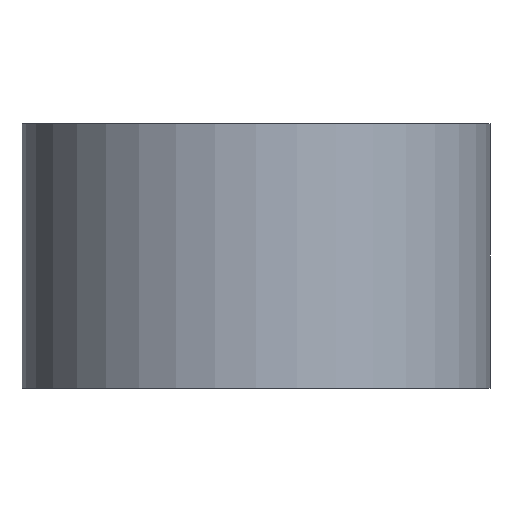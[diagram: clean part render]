
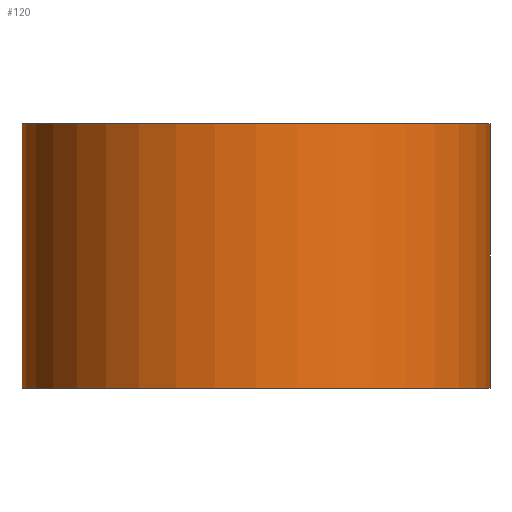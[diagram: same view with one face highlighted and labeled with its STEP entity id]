
A CAD part, front view. The second image highlights one B-rep face of the part: STEP entity #120.
In plain terms, the highlighted cylindrical face has radius 114 mm (diameter 228 mm), a partial arc.
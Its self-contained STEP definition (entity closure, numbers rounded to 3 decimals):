
#64=CARTESIAN_POINT('Axis2P3D Location',(0.,0.,64.5)) ;
#69=CARTESIAN_POINT('Line Origine',(114.,0.,64.5)) ;
#73=CARTESIAN_POINT('Vertex',(114.,0.,0.)) ;
#75=CARTESIAN_POINT('Vertex',(114.,0.,129.)) ;
#82=CARTESIAN_POINT('Vertex',(-114.,0.,0.)) ;
#85=CARTESIAN_POINT('Line Origine',(-114.,0.,64.5)) ;
#89=CARTESIAN_POINT('Vertex',(-114.,0.,129.)) ;
#104=CARTESIAN_POINT('Axis2P3D Location',(0.,0.,0.)) ;
#109=CARTESIAN_POINT('Axis2P3D Location',(0.,0.,129.)) ;
#65=DIRECTION('Axis2P3D Direction',(0.,0.,1.)) ;
#66=DIRECTION('Axis2P3D XDirection',(1.,0.,0.)) ;
#70=DIRECTION('Vector Direction',(0.,0.,1.)) ;
#86=DIRECTION('Vector Direction',(0.,0.,1.)) ;
#105=DIRECTION('Axis2P3D Direction',(0.,0.,1.)) ;
#110=DIRECTION('Axis2P3D Direction',(0.,0.,1.)) ;
#67=AXIS2_PLACEMENT_3D('Cylinder Axis2P3D',#64,#65,#66) ;
#106=AXIS2_PLACEMENT_3D('Circle Axis2P3D',#104,#105,$) ;
#111=AXIS2_PLACEMENT_3D('Circle Axis2P3D',#109,#110,$) ;
#115=ORIENTED_EDGE('',*,*,#91,.F.) ;
#116=ORIENTED_EDGE('',*,*,#108,.T.) ;
#117=ORIENTED_EDGE('',*,*,#77,.T.) ;
#118=ORIENTED_EDGE('',*,*,#113,.F.) ;
#71=VECTOR('Line Direction',#70,1.) ;
#87=VECTOR('Line Direction',#86,1.) ;
#120=ADVANCED_FACE('PartBody',(#119),#68,.T.) ;
#107=CIRCLE('generated circle',#106,114.) ;
#112=CIRCLE('generated circle',#111,114.) ;
#68=CYLINDRICAL_SURFACE('generated cylinder',#67,114.) ;
#77=EDGE_CURVE('',#74,#76,#72,.T.) ;
#91=EDGE_CURVE('',#83,#90,#88,.T.) ;
#108=EDGE_CURVE('',#83,#74,#107,.T.) ;
#113=EDGE_CURVE('',#90,#76,#112,.T.) ;
#114=EDGE_LOOP('',(#115,#116,#117,#118)) ;
#119=FACE_OUTER_BOUND('',#114,.T.) ;
#72=LINE('Line',#69,#71) ;
#88=LINE('Line',#85,#87) ;
#74=VERTEX_POINT('',#73) ;
#76=VERTEX_POINT('',#75) ;
#83=VERTEX_POINT('',#82) ;
#90=VERTEX_POINT('',#89) ;
